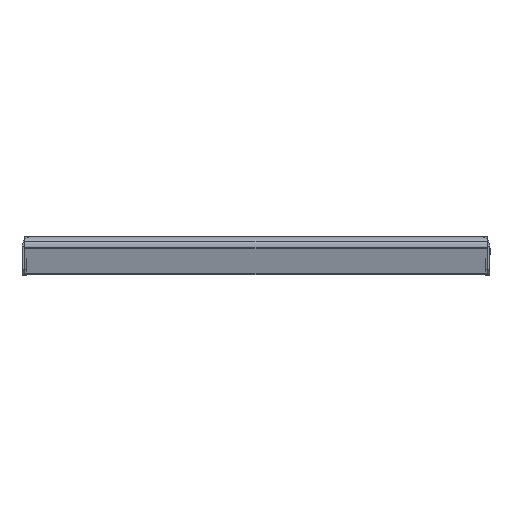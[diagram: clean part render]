
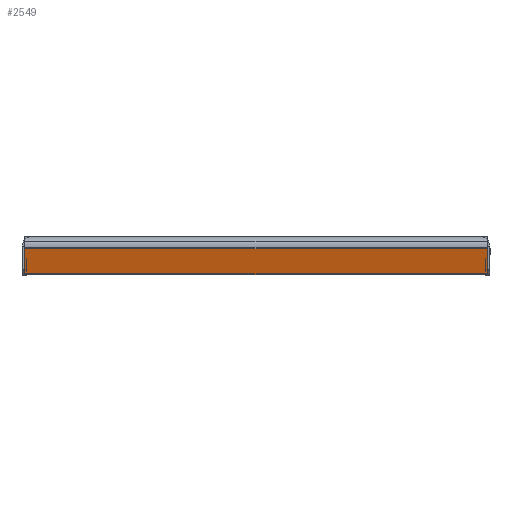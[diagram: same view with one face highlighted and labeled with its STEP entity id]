
A CAD part, front view. The second image highlights one B-rep face of the part: STEP entity #2549.
In plain terms, the highlighted planar face has unit normal (0, -0.966, -0.259) as drawn and (0.966, 0, 0.259) by its records, which use the part's own axes.
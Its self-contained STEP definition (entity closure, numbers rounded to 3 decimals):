
#97 = ORIENTED_EDGE ( 'NONE', *, *, #2675, .T. ) ;
#345 = CARTESIAN_POINT ( 'NONE',  ( 759.674, 126.644, 20.625 ) ) ;
#404 = CARTESIAN_POINT ( 'NONE',  ( 759.674, 125.171, 20.625 ) ) ;
#626 = VECTOR ( 'NONE', #3022, 1000. ) ;
#649 = VERTEX_POINT ( 'NONE', #3543 ) ;
#915 = VECTOR ( 'NONE', #936, 1000. ) ;
#936 = DIRECTION ( 'NONE',  ( 0.259, 0., -0.966 ) ) ;
#994 = CARTESIAN_POINT ( 'NONE',  ( 759.674, -125.171, 20.625 ) ) ;
#1112 = VECTOR ( 'NONE', #2559, 1000. ) ;
#1232 = CARTESIAN_POINT ( 'NONE',  ( 765.2, -125.171, 0. ) ) ;
#1554 = LINE ( 'NONE', #1766, #626 ) ;
#1596 = VECTOR ( 'NONE', #1912, 1000. ) ;
#1702 = LINE ( 'NONE', #3198, #1596 ) ;
#1744 = EDGE_CURVE ( 'NONE', #649, #2714, #1702, .T. ) ;
#1766 = CARTESIAN_POINT ( 'NONE',  ( 765.2, 125.171, 0. ) ) ;
#1791 = CARTESIAN_POINT ( 'NONE',  ( 765.2, 126.644, 0. ) ) ;
#1912 = DIRECTION ( 'NONE',  ( 0., -1., 0. ) ) ;
#2042 = LINE ( 'NONE', #345, #1112 ) ;
#2096 = DIRECTION ( 'NONE',  ( -0.259, 0., 0.966 ) ) ;
#2290 = VERTEX_POINT ( 'NONE', #404 ) ;
#2388 = EDGE_LOOP ( 'NONE', ( #3378, #3207, #97, #4014 ) ) ;
#2549 = ADVANCED_FACE ( 'NONE', ( #3171 ), #3352, .F. ) ;
#2559 = DIRECTION ( 'NONE',  ( 0., -1., 0. ) ) ;
#2583 = LINE ( 'NONE', #1232, #915 ) ;
#2675 = EDGE_CURVE ( 'NONE', #3833, #2714, #2583, .T. ) ;
#2714 = VERTEX_POINT ( 'NONE', #2832 ) ;
#2832 = CARTESIAN_POINT ( 'NONE',  ( 763.427, -125.171, 6.619 ) ) ;
#3022 = DIRECTION ( 'NONE',  ( -0.259, 0., 0.966 ) ) ;
#3093 = EDGE_CURVE ( 'NONE', #649, #2290, #1554, .T. ) ;
#3171 = FACE_OUTER_BOUND ( 'NONE', #2388, .T. ) ;
#3198 = CARTESIAN_POINT ( 'NONE',  ( 763.427, 126.644, 6.619 ) ) ;
#3207 = ORIENTED_EDGE ( 'NONE', *, *, #3464, .T. ) ;
#3352 = PLANE ( 'NONE',  #3582 ) ;
#3378 = ORIENTED_EDGE ( 'NONE', *, *, #3093, .T. ) ;
#3464 = EDGE_CURVE ( 'NONE', #2290, #3833, #2042, .T. ) ;
#3543 = CARTESIAN_POINT ( 'NONE',  ( 763.427, 125.171, 6.619 ) ) ;
#3582 = AXIS2_PLACEMENT_3D ( 'NONE', #1791, #3971, #2096 ) ;
#3833 = VERTEX_POINT ( 'NONE', #994 ) ;
#3971 = DIRECTION ( 'NONE',  ( -0.966, 0., -0.259 ) ) ;
#4014 = ORIENTED_EDGE ( 'NONE', *, *, #1744, .F. ) ;
